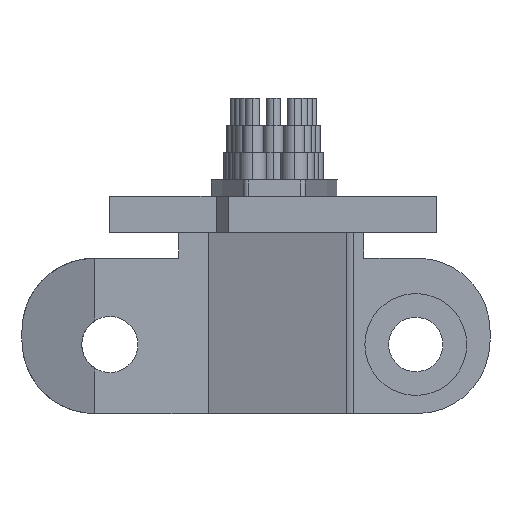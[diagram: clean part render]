
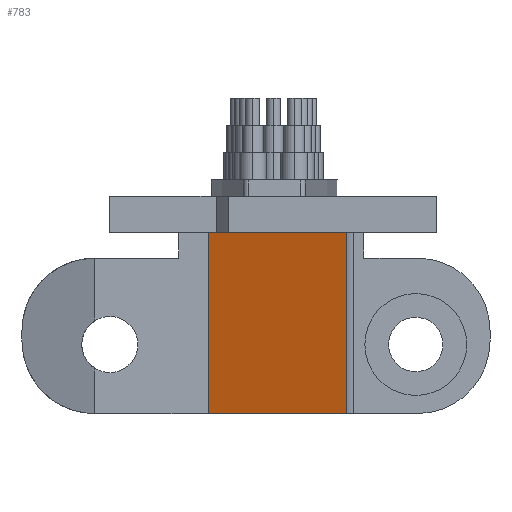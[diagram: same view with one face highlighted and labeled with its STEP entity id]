
A CAD part, left-side view. The second image highlights one B-rep face of the part: STEP entity #783.
In plain terms, the highlighted planar face has unit normal (-0.934, 0.358, 0).
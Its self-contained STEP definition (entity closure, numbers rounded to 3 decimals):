
#188 = EDGE_CURVE ( 'NONE', #5973, #6587, #5794, .T. ) ;
#268 = EDGE_LOOP ( 'NONE', ( #1192, #4909, #5805, #10644 ) ) ;
#687 = EDGE_CURVE ( 'NONE', #5973, #2364, #2153, .T. ) ;
#781 = DIRECTION ( 'NONE',  ( 0., 0., -1. ) ) ;
#783 = ADVANCED_FACE ( 'NONE', ( #8113 ), #10140, .T. ) ;
#1192 = ORIENTED_EDGE ( 'NONE', *, *, #8593, .T. ) ;
#2152 = CARTESIAN_POINT ( 'NONE',  ( 192.2, 105.022, 28.1 ) ) ;
#2153 = LINE ( 'NONE', #7594, #6370 ) ;
#2364 = VERTEX_POINT ( 'NONE', #10407 ) ;
#2960 = AXIS2_PLACEMENT_3D ( 'NONE', #4133, #3301, #7561 ) ;
#3301 = DIRECTION ( 'NONE',  ( -0.934, 0.358, 0. ) ) ;
#3825 = LINE ( 'NONE', #5219, #6604 ) ;
#4133 = CARTESIAN_POINT ( 'NONE',  ( 192.2, 105.022, 27.6 ) ) ;
#4736 = CARTESIAN_POINT ( 'NONE',  ( 186.333, 89.732, 28.1 ) ) ;
#4909 = ORIENTED_EDGE ( 'NONE', *, *, #5187, .T. ) ;
#5187 = EDGE_CURVE ( 'NONE', #7511, #6587, #6327, .T. ) ;
#5219 = CARTESIAN_POINT ( 'NONE',  ( 192.2, 105.022, 8.1 ) ) ;
#5794 = LINE ( 'NONE', #7446, #7803 ) ;
#5805 = ORIENTED_EDGE ( 'NONE', *, *, #188, .F. ) ;
#5835 = CARTESIAN_POINT ( 'NONE',  ( 186.333, 89.732, 8.1 ) ) ;
#5973 = VERTEX_POINT ( 'NONE', #2152 ) ;
#6327 = LINE ( 'NONE', #10288, #8979 ) ;
#6370 = VECTOR ( 'NONE', #781, 1000. ) ;
#6587 = VERTEX_POINT ( 'NONE', #4736 ) ;
#6604 = VECTOR ( 'NONE', #6843, 1000. ) ;
#6843 = DIRECTION ( 'NONE',  ( -0.358, -0.934, 0. ) ) ;
#7446 = CARTESIAN_POINT ( 'NONE',  ( 192.2, 105.022, 28.1 ) ) ;
#7511 = VERTEX_POINT ( 'NONE', #5835 ) ;
#7561 = DIRECTION ( 'NONE',  ( -0.358, -0.934, 0. ) ) ;
#7594 = CARTESIAN_POINT ( 'NONE',  ( 192.2, 105.022, 27.6 ) ) ;
#7747 = DIRECTION ( 'NONE',  ( 0., 0., 1. ) ) ;
#7803 = VECTOR ( 'NONE', #9068, 1000. ) ;
#8113 = FACE_OUTER_BOUND ( 'NONE', #268, .T. ) ;
#8593 = EDGE_CURVE ( 'NONE', #2364, #7511, #3825, .T. ) ;
#8979 = VECTOR ( 'NONE', #7747, 1000. ) ;
#9068 = DIRECTION ( 'NONE',  ( -0.358, -0.934, 0. ) ) ;
#10140 = PLANE ( 'NONE',  #2960 ) ;
#10288 = CARTESIAN_POINT ( 'NONE',  ( 186.333, 89.732, 27.6 ) ) ;
#10407 = CARTESIAN_POINT ( 'NONE',  ( 192.2, 105.022, 8.1 ) ) ;
#10644 = ORIENTED_EDGE ( 'NONE', *, *, #687, .T. ) ;
